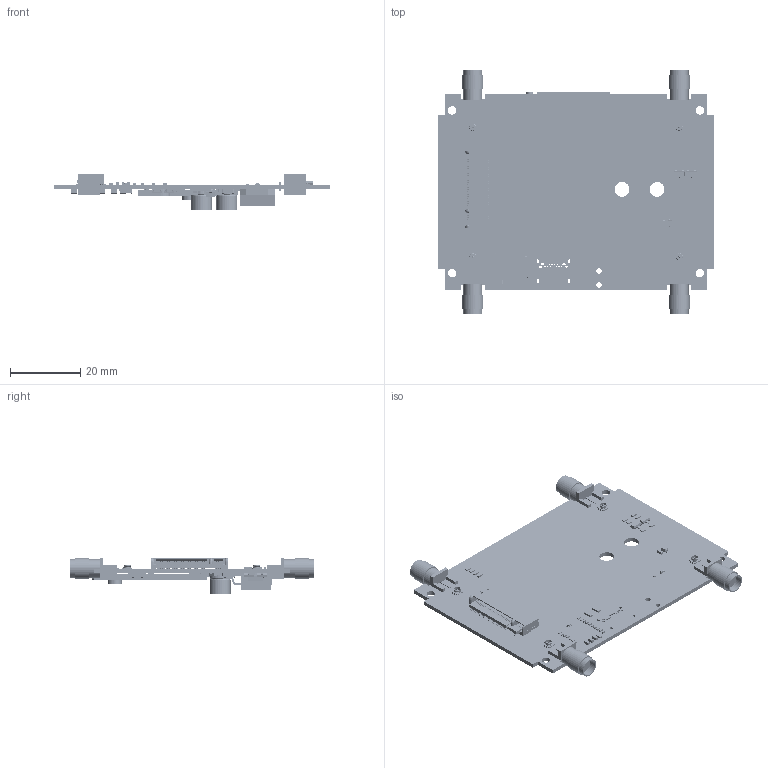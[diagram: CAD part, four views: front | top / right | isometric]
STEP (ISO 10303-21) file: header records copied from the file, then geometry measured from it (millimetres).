
FILE_DESCRIPTION(('Open CASCADE Model'),'2;1');
FILE_NAME('Open CASCADE Shape Model','2024-12-23T18:34:12',('Author'),( 'Open CASCADE'),'Open CASCADE STEP processor 6.5','Open CASCADE 6.5' ,'Unknown');
FILE_SCHEMA(('AUTOMOTIVE_DESIGN { 1 0 10303 214 1 1 1 1 }'));
Length unit declared in the file: millimetre
Products named in the file (221): PCB; Board; C45; C_0603; C_0603-7177_AF0_ASM; C_0603-683_AF0_ASM; 2_1_200; _1_1_20001; 3_1_2_A; C44; GNSS4; User_Library-U_FL-R-SMT(10); R11; R0402; R_0402-5222_AF0_ASM; R_0402-3099_AF0_ASM; _2_1_20001; 5_1_2_A; _7_AF0; R10; U4; CircuitWorks-SOT-23-5; U3; U2; User_Library-TO263-5; Free-Models5; 450156497; Extruded17; 450155473; Extruded21; 450155217; Extruded19; 450155089; Extruded16; 450154961; Extruded11; 450154833; Extruded15; 449923505; Cylinder1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
Assembly tree (317 placements, depth 10):
  PCB
    Board
    C45
      C_0603
        C_0603-7177_AF0_ASM
          C_0603-683_AF0_ASM
            2_1_200
            _1_1_20001
            3_1_2_A
    C44
      C_0603
        C_0603-7177_AF0_ASM
          C_0603-683_AF0_ASM
            2_1_200
            _1_1_20001
            3_1_2_A
    GNSS4
      User_Library-U_FL-R-SMT(10)
    R11
      R0402
        R_0402-5222_AF0_ASM
          R_0402-3099_AF0_ASM
            _2_1_20001
            5_1_2_A
            _7_AF0
    R10
      R0402
        R_0402-5222_AF0_ASM
          R_0402-3099_AF0_ASM
            _2_1_20001
            5_1_2_A
            _7_AF0
    U4
      CircuitWorks-SOT-23-5
    U3
      CircuitWorks-SOT-23-5
    U2
      User_Library-TO263-5
        Free-Models5
          450156497
            Extruded17
          450155473
            Extruded21
          450155217
            Extruded19
          450155089
            Extruded16
          450154961
            Extruded11
          450154833
            Extruded15
          449923505
            Cylinder1
          BODY3
            Free-Models6
              BODY4
                Free-Models7
                  453496017
                Board5
              BODY5
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Bounding box: 78.9 x 69.76 x 10.45 mm (x, y, z)
Volume: 8840.5 mm3; surface area: 15437.2 mm2
Topology: 332 solids, 338 shells, 41749 faces, 111399 edges, 73584 vertices
Faces by surface type: plane 29980, extrusion 9248, cylinder 1814, sphere 445, bspline 196, torus 30, cone 28, revolution 8
Full cylindrical faces by diameter (mm): 0.4 x10, 0.65 x1, 1.15 x1, 1.5 x2, 1.65 x1, 2 x1, 4 x1, 4.2 x2
Entity records: 525590 total; most frequent: CARTESIAN_POINT 187870, DIRECTION 52124, VECTOR 37887, LINE 36835, ORIENTED_EDGE 34676, PCURVE 34676, DEFINITIONAL_REPRESENTATION 34676, EDGE_CURVE 17343
